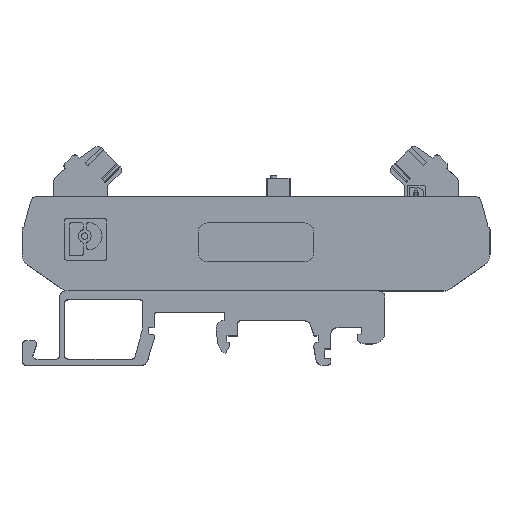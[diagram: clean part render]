
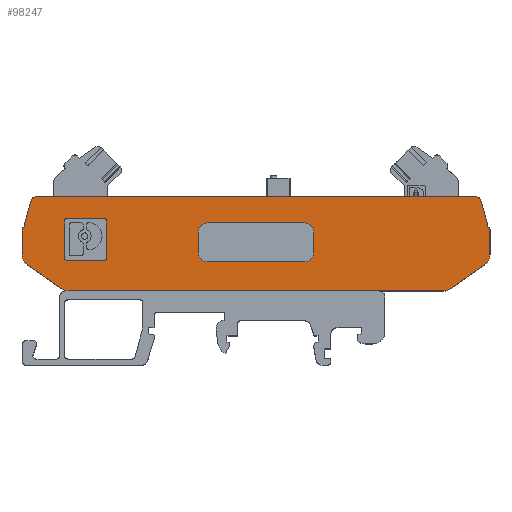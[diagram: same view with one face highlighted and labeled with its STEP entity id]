
A CAD part, top view. The second image highlights one B-rep face of the part: STEP entity #98247.
In plain terms, the highlighted planar face has unit normal (0, 0, 1) as drawn and (0, 0, -1) by its records, which use the part's own axes.
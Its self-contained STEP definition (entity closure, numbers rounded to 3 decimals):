
#5284=FACE_BOUND('',#16908,.T.);
#7027=CIRCLE('',#104251,0.3);
#7029=CIRCLE('',#104255,2.);
#7031=CIRCLE('',#104259,2.);
#7033=CIRCLE('',#104263,1.);
#7035=CIRCLE('',#104266,2.);
#7037=CIRCLE('',#104270,0.3);
#7039=CIRCLE('',#104273,1.);
#7041=CIRCLE('',#104278,2.);
#7066=CIRCLE('',#104353,0.488);
#7067=CIRCLE('',#104354,0.488);
#7068=CIRCLE('',#104355,0.488);
#7069=CIRCLE('',#104356,0.488);
#11740=FACE_OUTER_BOUND('',#16907,.T.);
#16907=EDGE_LOOP('',(#88749,#88750,#88751,#88752,#88753,#88754,#88755,#88756,
#88757,#88758,#88759,#88760,#88761,#88762,#88763,#88764));
#16908=EDGE_LOOP('',(#88765,#88766,#88767,#88768,#88769,#88770,#88771,#88772));
#28631=LINE('',#154535,#40581);
#28636=LINE('',#154548,#40586);
#28640=LINE('',#154560,#40590);
#28644=LINE('',#154573,#40594);
#28662=LINE('',#154619,#40612);
#28667=LINE('',#154635,#40617);
#28669=LINE('',#154639,#40619);
#28676=LINE('',#154655,#40626);
#28775=LINE('',#154907,#40725);
#28776=LINE('',#154911,#40726);
#28777=LINE('',#154915,#40727);
#28778=LINE('',#154918,#40728);
#40581=VECTOR('',#127406,4.409);
#40586=VECTOR('',#127419,4.257);
#40590=VECTOR('',#127431,6.874);
#40594=VECTOR('',#127443,61.739);
#40612=VECTOR('',#127475,4.409);
#40617=VECTOR('',#127494,4.257);
#40619=VECTOR('',#127498,72.186);
#40626=VECTOR('',#127513,6.874);
#40725=VECTOR('',#127760,5.924);
#40726=VECTOR('',#127763,6.023);
#40727=VECTOR('',#127766,5.924);
#40728=VECTOR('',#127769,6.023);
#49419=VERTEX_POINT('',#154532);
#49420=VERTEX_POINT('',#154534);
#49422=VERTEX_POINT('',#154540);
#49424=VERTEX_POINT('',#154546);
#49426=VERTEX_POINT('',#154552);
#49428=VERTEX_POINT('',#154558);
#49430=VERTEX_POINT('',#154564);
#49433=VERTEX_POINT('',#154571);
#49447=VERTEX_POINT('',#154601);
#49448=VERTEX_POINT('',#154603);
#49451=VERTEX_POINT('',#154610);
#49452=VERTEX_POINT('',#154612);
#49454=VERTEX_POINT('',#154618);
#49456=VERTEX_POINT('',#154624);
#49458=VERTEX_POINT('',#154630);
#49464=VERTEX_POINT('',#154650);
#49541=VERTEX_POINT('',#154903);
#49542=VERTEX_POINT('',#154904);
#49543=VERTEX_POINT('',#154906);
#49544=VERTEX_POINT('',#154908);
#49545=VERTEX_POINT('',#154910);
#49546=VERTEX_POINT('',#154912);
#49547=VERTEX_POINT('',#154914);
#49548=VERTEX_POINT('',#154916);
#62498=EDGE_CURVE('',#49420,#49419,#28631,.T.);
#62502=EDGE_CURVE('',#49422,#49419,#7027,.T.);
#62505=EDGE_CURVE('',#49422,#49424,#28636,.T.);
#62508=EDGE_CURVE('',#49426,#49424,#7029,.T.);
#62511=EDGE_CURVE('',#49426,#49428,#28640,.T.);
#62514=EDGE_CURVE('',#49430,#49428,#7031,.T.);
#62517=EDGE_CURVE('',#49430,#49433,#28644,.T.);
#62532=EDGE_CURVE('',#49447,#49448,#7033,.T.);
#62536=EDGE_CURVE('',#49451,#49452,#7035,.T.);
#62539=EDGE_CURVE('',#49454,#49448,#28662,.T.);
#62542=EDGE_CURVE('',#49454,#49456,#7037,.T.);
#62545=EDGE_CURVE('',#49420,#49458,#7039,.T.);
#62548=EDGE_CURVE('',#49451,#49456,#28667,.T.);
#62550=EDGE_CURVE('',#49447,#49458,#28669,.T.);
#62557=EDGE_CURVE('',#49464,#49433,#7041,.T.);
#62559=EDGE_CURVE('',#49464,#49452,#28676,.T.);
#62682=EDGE_CURVE('',#49541,#49542,#7066,.T.);
#62683=EDGE_CURVE('',#49541,#49543,#28775,.T.);
#62684=EDGE_CURVE('',#49544,#49543,#7067,.T.);
#62685=EDGE_CURVE('',#49544,#49545,#28776,.T.);
#62686=EDGE_CURVE('',#49546,#49545,#7068,.T.);
#62687=EDGE_CURVE('',#49546,#49547,#28777,.T.);
#62688=EDGE_CURVE('',#49548,#49547,#7069,.T.);
#62689=EDGE_CURVE('',#49548,#49542,#28778,.T.);
#88749=ORIENTED_EDGE('',*,*,#62545,.F.);
#88750=ORIENTED_EDGE('',*,*,#62498,.T.);
#88751=ORIENTED_EDGE('',*,*,#62502,.F.);
#88752=ORIENTED_EDGE('',*,*,#62505,.T.);
#88753=ORIENTED_EDGE('',*,*,#62508,.F.);
#88754=ORIENTED_EDGE('',*,*,#62511,.T.);
#88755=ORIENTED_EDGE('',*,*,#62514,.F.);
#88756=ORIENTED_EDGE('',*,*,#62517,.T.);
#88757=ORIENTED_EDGE('',*,*,#62557,.F.);
#88758=ORIENTED_EDGE('',*,*,#62559,.T.);
#88759=ORIENTED_EDGE('',*,*,#62536,.F.);
#88760=ORIENTED_EDGE('',*,*,#62548,.T.);
#88761=ORIENTED_EDGE('',*,*,#62542,.F.);
#88762=ORIENTED_EDGE('',*,*,#62539,.T.);
#88763=ORIENTED_EDGE('',*,*,#62532,.F.);
#88764=ORIENTED_EDGE('',*,*,#62550,.T.);
#88765=ORIENTED_EDGE('',*,*,#62682,.F.);
#88766=ORIENTED_EDGE('',*,*,#62683,.T.);
#88767=ORIENTED_EDGE('',*,*,#62684,.F.);
#88768=ORIENTED_EDGE('',*,*,#62685,.T.);
#88769=ORIENTED_EDGE('',*,*,#62686,.F.);
#88770=ORIENTED_EDGE('',*,*,#62687,.T.);
#88771=ORIENTED_EDGE('',*,*,#62688,.F.);
#88772=ORIENTED_EDGE('',*,*,#62689,.T.);
#93609=PLANE('',#104352);
#98247=ADVANCED_FACE('',(#11740,#5284),#93609,.F.);
#104251=AXIS2_PLACEMENT_3D('',#154542,#127413,#127414);
#104255=AXIS2_PLACEMENT_3D('',#154554,#127425,#127426);
#104259=AXIS2_PLACEMENT_3D('',#154566,#127437,#127438);
#104263=AXIS2_PLACEMENT_3D('',#154604,#127461,#127462);
#104266=AXIS2_PLACEMENT_3D('',#154613,#127469,#127470);
#104270=AXIS2_PLACEMENT_3D('',#154625,#127481,#127482);
#104273=AXIS2_PLACEMENT_3D('',#154631,#127488,#127489);
#104278=AXIS2_PLACEMENT_3D('',#154652,#127508,#127509);
#104352=AXIS2_PLACEMENT_3D('',#154902,#127756,#127757);
#104353=AXIS2_PLACEMENT_3D('',#154905,#127758,#127759);
#104354=AXIS2_PLACEMENT_3D('',#154909,#127761,#127762);
#104355=AXIS2_PLACEMENT_3D('',#154913,#127764,#127765);
#104356=AXIS2_PLACEMENT_3D('',#154917,#127767,#127768);
#127406=DIRECTION('',(0.259,-0.966,0.));
#127413=DIRECTION('center_axis',(0.,0.,1.));
#127414=DIRECTION('ref_axis',(1.,0.,0.));
#127419=DIRECTION('',(0.,-1.,0.));
#127425=DIRECTION('center_axis',(0.,0.,1.));
#127426=DIRECTION('ref_axis',(1.,0.,0.));
#127431=DIRECTION('',(-0.819,-0.574,0.));
#127437=DIRECTION('center_axis',(0.,0.,1.));
#127438=DIRECTION('ref_axis',(1.,0.,0.));
#127443=DIRECTION('',(-1.,0.,0.));
#127461=DIRECTION('center_axis',(0.,0.,1.));
#127462=DIRECTION('ref_axis',(1.,0.,0.));
#127469=DIRECTION('center_axis',(0.,0.,1.));
#127470=DIRECTION('ref_axis',(1.,0.,0.));
#127475=DIRECTION('',(0.259,0.966,0.));
#127481=DIRECTION('center_axis',(0.,0.,1.));
#127482=DIRECTION('ref_axis',(1.,0.,0.));
#127488=DIRECTION('center_axis',(0.,0.,1.));
#127489=DIRECTION('ref_axis',(1.,0.,0.));
#127494=DIRECTION('',(0.,1.,0.));
#127498=DIRECTION('',(1.,0.,0.));
#127508=DIRECTION('center_axis',(0.,0.,1.));
#127509=DIRECTION('ref_axis',(1.,0.,0.));
#127513=DIRECTION('',(-0.819,0.574,0.));
#127756=DIRECTION('center_axis',(0.,0.,1.));
#127757=DIRECTION('ref_axis',(1.,0.,0.));
#127758=DIRECTION('center_axis',(0.,0.,-1.));
#127759=DIRECTION('ref_axis',(-1.,0.,0.));
#127760=DIRECTION('',(-1.,0.,0.));
#127761=DIRECTION('center_axis',(0.,0.,-1.));
#127762=DIRECTION('ref_axis',(-1.,0.,0.));
#127763=DIRECTION('',(0.,-1.,0.));
#127764=DIRECTION('center_axis',(0.,0.,-1.));
#127765=DIRECTION('ref_axis',(-1.,0.,0.));
#127766=DIRECTION('',(1.,0.,0.));
#127767=DIRECTION('center_axis',(0.,0.,-1.));
#127768=DIRECTION('ref_axis',(-1.,0.,0.));
#127769=DIRECTION('',(0.,1.,0.));
#154532=CARTESIAN_POINT('',(-22.587,10.5,-11.2));
#154534=CARTESIAN_POINT('',(-23.728,14.759,-11.2));
#154535=CARTESIAN_POINT('',(-23.728,14.759,-11.2));
#154540=CARTESIAN_POINT('',(-22.287,10.2,-11.2));
#154542=CARTESIAN_POINT('Origin',(-22.587,10.2,-11.2));
#154546=CARTESIAN_POINT('',(-22.287,5.943,-11.2));
#154548=CARTESIAN_POINT('',(-22.287,10.2,-11.2));
#154552=CARTESIAN_POINT('',(-23.14,4.304,-11.2));
#154554=CARTESIAN_POINT('Origin',(-24.287,5.943,-11.2));
#154558=CARTESIAN_POINT('',(-28.771,0.362,-11.2));
#154560=CARTESIAN_POINT('',(-23.14,4.304,-11.2));
#154564=CARTESIAN_POINT('',(-29.918,0.,-11.2));
#154566=CARTESIAN_POINT('Origin',(-29.918,2.,-11.2));
#154571=CARTESIAN_POINT('',(-91.656,0.,-11.2));
#154573=CARTESIAN_POINT('',(-29.918,0.,-11.2));
#154601=CARTESIAN_POINT('',(-96.88,15.5,-11.2));
#154603=CARTESIAN_POINT('',(-97.846,14.759,-11.2));
#154604=CARTESIAN_POINT('Origin',(-96.88,14.5,-11.2));
#154610=CARTESIAN_POINT('',(-99.287,5.943,-11.2));
#154612=CARTESIAN_POINT('',(-98.434,4.304,-11.2));
#154613=CARTESIAN_POINT('Origin',(-97.287,5.943,-11.2));
#154618=CARTESIAN_POINT('',(-98.987,10.5,-11.2));
#154619=CARTESIAN_POINT('',(-98.987,10.5,-11.2));
#154624=CARTESIAN_POINT('',(-99.287,10.2,-11.2));
#154625=CARTESIAN_POINT('Origin',(-98.987,10.2,-11.2));
#154630=CARTESIAN_POINT('',(-24.694,15.5,-11.2));
#154631=CARTESIAN_POINT('Origin',(-24.694,14.5,-11.2));
#154635=CARTESIAN_POINT('',(-99.287,5.943,-11.2));
#154639=CARTESIAN_POINT('',(-96.88,15.5,-11.2));
#154650=CARTESIAN_POINT('',(-92.804,0.362,-11.2));
#154652=CARTESIAN_POINT('Origin',(-91.656,2.,-11.2));
#154655=CARTESIAN_POINT('',(-92.804,0.362,-11.2));
#154902=CARTESIAN_POINT('Origin',(0.,0.,-11.2));
#154903=CARTESIAN_POINT('',(-29.775,12.,-11.2));
#154904=CARTESIAN_POINT('',(-29.287,11.512,-11.2));
#154905=CARTESIAN_POINT('Origin',(-29.775,11.512,-11.2));
#154906=CARTESIAN_POINT('',(-35.699,12.,-11.2));
#154907=CARTESIAN_POINT('',(-29.775,12.,-11.2));
#154908=CARTESIAN_POINT('',(-36.188,11.512,-11.2));
#154909=CARTESIAN_POINT('Origin',(-35.699,11.512,-11.2));
#154910=CARTESIAN_POINT('',(-36.188,5.488,-11.2));
#154911=CARTESIAN_POINT('',(-36.188,11.512,-11.2));
#154912=CARTESIAN_POINT('',(-35.699,5.,-11.2));
#154913=CARTESIAN_POINT('Origin',(-35.699,5.488,-11.2));
#154914=CARTESIAN_POINT('',(-29.775,5.,-11.2));
#154915=CARTESIAN_POINT('',(-35.699,5.,-11.2));
#154916=CARTESIAN_POINT('',(-29.287,5.488,-11.2));
#154917=CARTESIAN_POINT('Origin',(-29.775,5.488,-11.2));
#154918=CARTESIAN_POINT('',(-29.287,5.488,-11.2));
